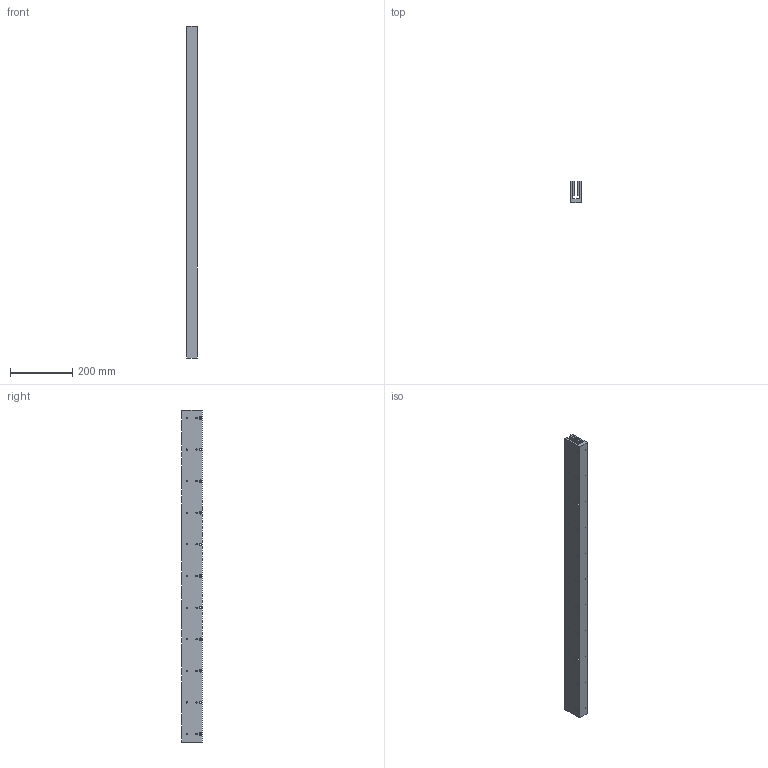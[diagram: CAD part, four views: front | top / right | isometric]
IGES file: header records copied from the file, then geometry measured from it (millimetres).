
Global section: file name: No Iges File Name specified; native system: Autodesk Inventor 2009; preprocessor: AutoDesk Inventor Iges Exporter R2009; author: je17857; date: 20091116.111602; units: inch
Bounding box: 34.29 x 67.31 x 1066.8 mm (x, y, z)
Volume: 1594288.5 mm3; surface area: 402223.4 mm2
Topology: 1 solids, 1 shells, 558 faces, 1326 edges, 884 vertices
Faces by surface type: plane 382, bspline 176
